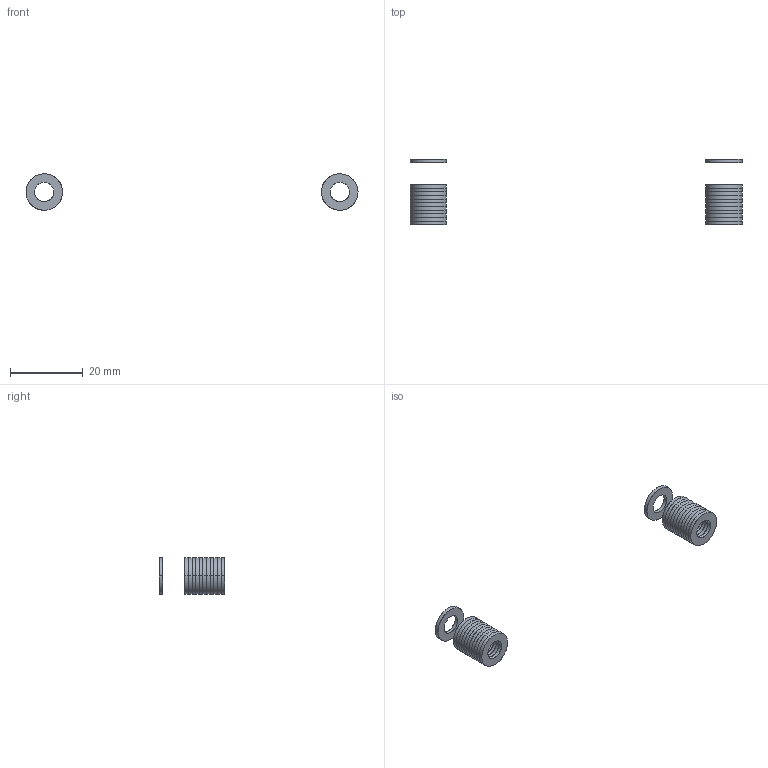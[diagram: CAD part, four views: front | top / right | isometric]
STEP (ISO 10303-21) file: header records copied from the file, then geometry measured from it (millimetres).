
FILE_DESCRIPTION(/* description */ (''),/* implementation_level */ '2;1');
FILE_NAME(/* name */ '7.x-cart#7.6#PWF5',/* time_stamp */ '2014-12-01T20:17:42+01:00',/* author */ (''),/* organization */ (''),/* preprocessor_version */ 'ST-DEVELOPER v14',/* originating_system */ '',/* authorisation */ '');
FILE_SCHEMA (('AUTOMOTIVE_DESIGN'));
Length unit declared in the file: millimetre
Products named in the file (2): Document; washer DIN125-like, form A, M5
Assembly tree (24 placements, depth 2):
  Document
    washer DIN125-like, form A, M5  x24
Bounding box: 91 x 18 x 9.99 mm (x, y, z)
Surface area: 3870.5 mm2 (no closed solid volume)
Topology: 0 solids, 144 shells, 144 faces, 480 edges, 480 vertices
Faces by surface type: bspline 96, plane 48
Entity records: 727 total; most frequent: CARTESIAN_POINT 281, DIRECTION 56, AXIS2_PLACEMENT_3D 29, PRODUCT_DEFINITION_SHAPE 26, ITEM_DEFINED_TRANSFORMATION 24, CONTEXT_DEPENDENT_SHAPE_REPRESENTATION 24, NEXT_ASSEMBLY_USAGE_OCCURRENCE 24, B_SPLINE_CURVE_WITH_KNOTS 24
